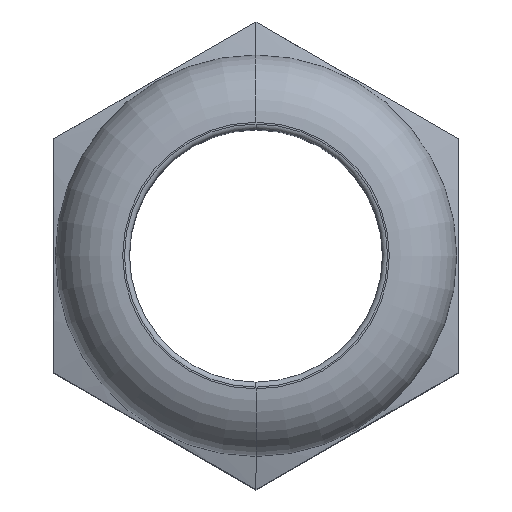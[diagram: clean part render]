
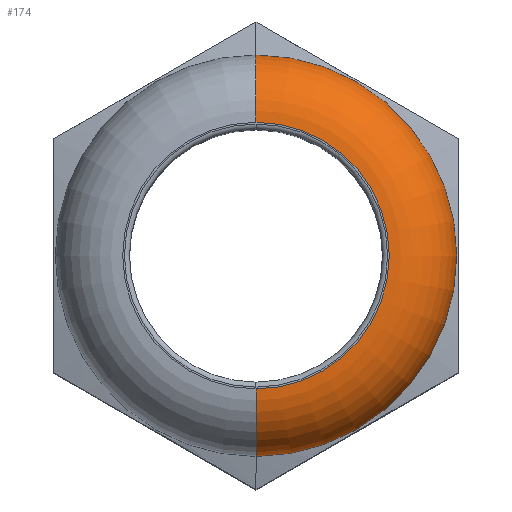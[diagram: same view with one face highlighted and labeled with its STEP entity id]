
A CAD part, top view. The second image highlights one B-rep face of the part: STEP entity #174.
In plain terms, the highlighted toroidal (fillet/blend) face has major radius 7.9 mm and minor radius 4 mm.
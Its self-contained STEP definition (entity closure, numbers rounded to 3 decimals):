
#5 = VERTEX_POINT ( 'NONE', #970 ) ;
#6 = ORIENTED_EDGE ( 'NONE', *, *, #7, .T. ) ;
#7 = EDGE_CURVE ( 'NONE', #5, #37, #882, .T. ) ;
#8 = ORIENTED_EDGE ( 'NONE', *, *, #36, .F. ) ;
#9 = ORIENTED_EDGE ( 'NONE', *, *, #25, .F. ) ;
#25 = EDGE_CURVE ( 'NONE', #196, #181, #1082, .T. ) ;
#36 = EDGE_CURVE ( 'NONE', #181, #37, #904, .T. ) ;
#37 = VERTEX_POINT ( 'NONE', #899 ) ;
#174 = ADVANCED_FACE ( 'NONE', ( #1224 ), #1223, .T. ) ;
#175 = EDGE_LOOP ( 'NONE', ( #194, #6, #8, #9 ) ) ;
#181 = VERTEX_POINT ( 'NONE', #1317 ) ;
#194 = ORIENTED_EDGE ( 'NONE', *, *, #195, .T. ) ;
#195 = EDGE_CURVE ( 'NONE', #196, #5, #1272, .T. ) ;
#196 = VERTEX_POINT ( 'NONE', #1258 ) ;
#879 = DIRECTION ( 'NONE',  ( 0., 1., 0. ) ) ;
#880 = DIRECTION ( 'NONE',  ( 1., 0., 0. ) ) ;
#881 = AXIS2_PLACEMENT_3D ( 'NONE', #968, #880, #879 ) ;
#882 = CIRCLE ( 'NONE', #881, 4. ) ;
#899 = CARTESIAN_POINT ( 'NONE',  ( 0., -11.9, 27. ) ) ;
#900 = DIRECTION ( 'NONE',  ( 0., 1., 0. ) ) ;
#901 = DIRECTION ( 'NONE',  ( 0., 0., -1. ) ) ;
#902 = CARTESIAN_POINT ( 'NONE',  ( 0., 0., 27. ) ) ;
#903 = AXIS2_PLACEMENT_3D ( 'NONE', #902, #901, #900 ) ;
#904 = CIRCLE ( 'NONE', #903, 11.9 ) ;
#968 = CARTESIAN_POINT ( 'NONE',  ( 0., -7.9, 27. ) ) ;
#970 = CARTESIAN_POINT ( 'NONE',  ( 0., -7.9, 31. ) ) ;
#1078 = DIRECTION ( 'NONE',  ( 0., 0., 1. ) ) ;
#1079 = DIRECTION ( 'NONE',  ( -1., 0., 0. ) ) ;
#1080 = CARTESIAN_POINT ( 'NONE',  ( 0., 7.9, 27. ) ) ;
#1081 = AXIS2_PLACEMENT_3D ( 'NONE', #1080, #1079, #1078 ) ;
#1082 = CIRCLE ( 'NONE', #1081, 4. ) ;
#1219 = DIRECTION ( 'NONE',  ( 0., 1., 0. ) ) ;
#1220 = DIRECTION ( 'NONE',  ( 0., 0., -1. ) ) ;
#1221 = CARTESIAN_POINT ( 'NONE',  ( 0., 0., 27. ) ) ;
#1222 = AXIS2_PLACEMENT_3D ( 'NONE', #1221, #1220, #1219 ) ;
#1223 = TOROIDAL_SURFACE ( 'NONE', #1222, 7.9, 4. ) ;
#1224 = FACE_OUTER_BOUND ( 'NONE', #175, .T. ) ;
#1258 = CARTESIAN_POINT ( 'NONE',  ( 0., 7.9, 31. ) ) ;
#1259 = DIRECTION ( 'NONE',  ( 0., 1., 0. ) ) ;
#1260 = DIRECTION ( 'NONE',  ( 0., 0., -1. ) ) ;
#1261 = AXIS2_PLACEMENT_3D ( 'NONE', #1274, #1260, #1259 ) ;
#1272 = CIRCLE ( 'NONE', #1261, 7.9 ) ;
#1274 = CARTESIAN_POINT ( 'NONE',  ( 0., 0., 31. ) ) ;
#1317 = CARTESIAN_POINT ( 'NONE',  ( 0., 11.9, 27. ) ) ;
